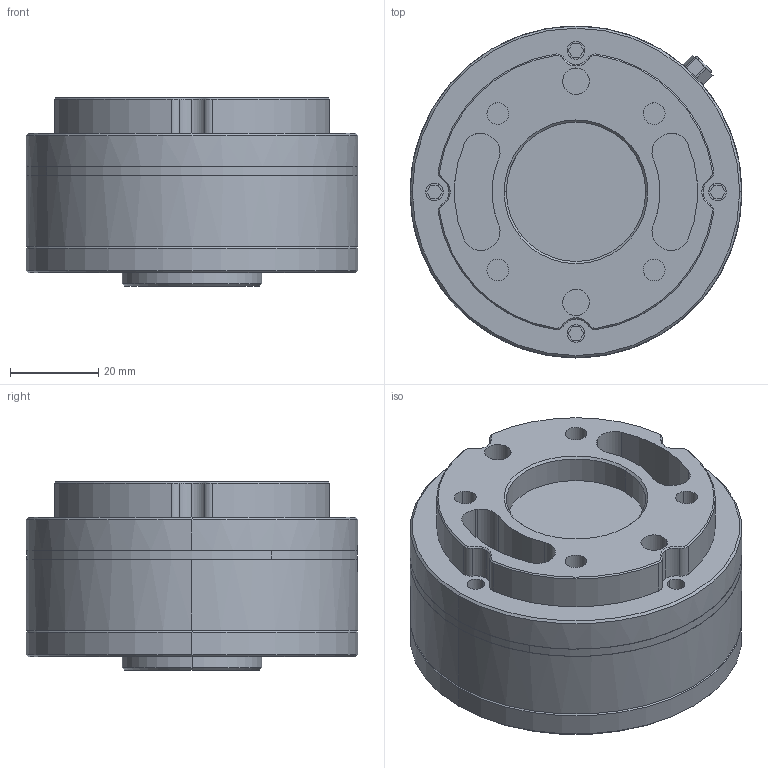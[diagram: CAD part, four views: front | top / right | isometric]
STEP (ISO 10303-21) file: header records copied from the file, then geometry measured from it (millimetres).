
FILE_DESCRIPTION(('CATIA V5 STEP'),'2;1');
FILE_NAME('C:\Users\17252\Desktop\KWR75S三维数模-坤维科技.stp','2020-09-14T08:39:45+00:00',('none'),('none'),'CATIA Version 5 Release 20 GA (IN-10)','CATIA V5 STEP AP214','none');
FILE_SCHEMA(('AUTOMOTIVE_DESIGN { 1 0 10303 214 1 1 1 1 }'));
Length unit declared in the file: millimetre
Products named in the file (1): 产品1_AllCATPart
Bounding box: 75 x 75 x 42.5 mm (x, y, z)
Volume: 117506.2 mm3; surface area: 49436.6 mm2
Topology: 6 solids, 15 shells, 532 faces, 1287 edges, 825 vertices
Faces by surface type: cylinder 260, plane 168, cone 86, torus 18
Entity records: 14455 total; most frequent: CARTESIAN_POINT 2598, ORIENTED_EDGE 2554, DIRECTION 2000, EDGE_CURVE 1277, AXIS2_PLACEMENT_3D 1046, VERTEX_POINT 823, CIRCLE 679, EDGE_LOOP 644
